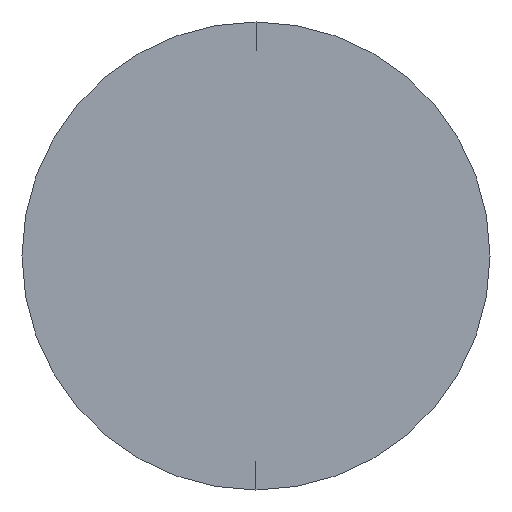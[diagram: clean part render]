
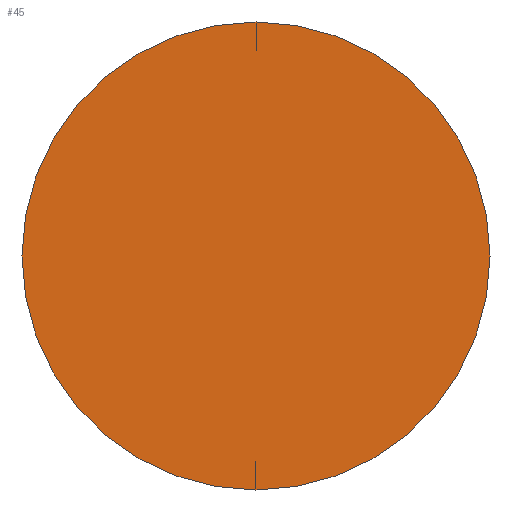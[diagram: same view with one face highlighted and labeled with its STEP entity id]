
A CAD part, left-side view. The second image highlights one B-rep face of the part: STEP entity #45.
In plain terms, the highlighted planar face has unit normal (-1, 0, 0).
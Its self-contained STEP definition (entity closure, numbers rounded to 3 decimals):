
#6 = EDGE_CURVE ( 'NONE', #286, #267, #13, .T. ) ;
#13 = CIRCLE ( 'NONE', #74, 1.4 ) ;
#14 = AXIS2_PLACEMENT_3D ( 'NONE', #211, #170, #256 ) ;
#16 = FACE_OUTER_BOUND ( 'NONE', #114, .T. ) ;
#24 = DIRECTION ( 'NONE',  ( -1., 0., 0. ) ) ;
#45 = ADVANCED_FACE ( 'NONE', ( #16 ), #220, .F. ) ;
#51 = CIRCLE ( 'NONE', #97, 1.4 ) ;
#57 = ORIENTED_EDGE ( 'NONE', *, *, #122, .T. ) ;
#74 = AXIS2_PLACEMENT_3D ( 'NONE', #100, #123, #280 ) ;
#97 = AXIS2_PLACEMENT_3D ( 'NONE', #214, #24, #201 ) ;
#100 = CARTESIAN_POINT ( 'NONE',  ( 0., 0., 0. ) ) ;
#114 = EDGE_LOOP ( 'NONE', ( #251, #57 ) ) ;
#122 = EDGE_CURVE ( 'NONE', #267, #286, #51, .T. ) ;
#123 = DIRECTION ( 'NONE',  ( -1., 0., 0. ) ) ;
#170 = DIRECTION ( 'NONE',  ( 1., 0., 0. ) ) ;
#201 = DIRECTION ( 'NONE',  ( 0., 0., 1. ) ) ;
#209 = CARTESIAN_POINT ( 'NONE',  ( 0., 0., 1.4 ) ) ;
#211 = CARTESIAN_POINT ( 'NONE',  ( 0., 0., 0. ) ) ;
#214 = CARTESIAN_POINT ( 'NONE',  ( 0., 0., 0. ) ) ;
#220 = PLANE ( 'NONE',  #14 ) ;
#251 = ORIENTED_EDGE ( 'NONE', *, *, #6, .T. ) ;
#256 = DIRECTION ( 'NONE',  ( 0., 0., -1. ) ) ;
#267 = VERTEX_POINT ( 'NONE', #285 ) ;
#280 = DIRECTION ( 'NONE',  ( 0., 0., 1. ) ) ;
#285 = CARTESIAN_POINT ( 'NONE',  ( 0., 0., -1.4 ) ) ;
#286 = VERTEX_POINT ( 'NONE', #209 ) ;
